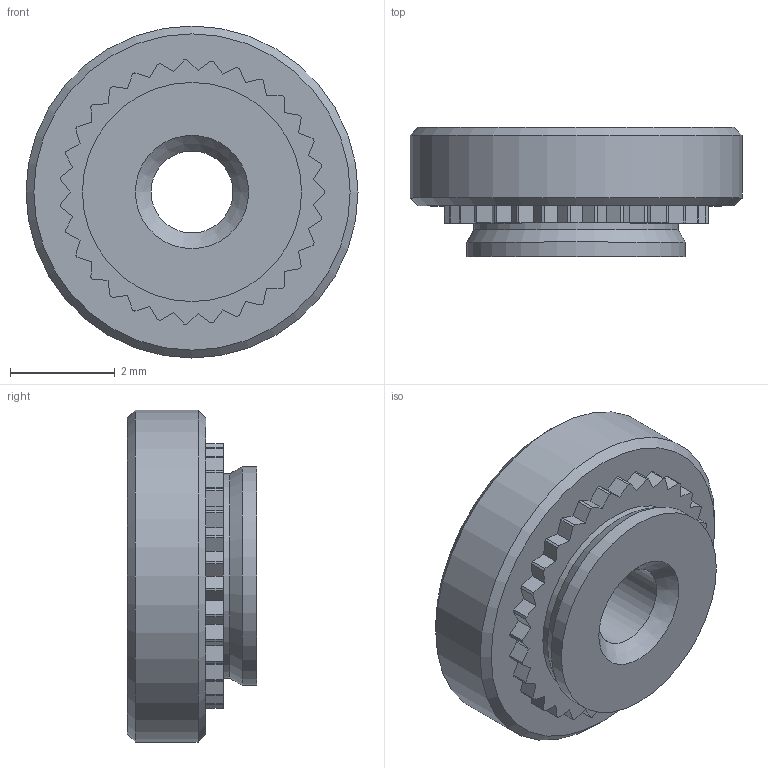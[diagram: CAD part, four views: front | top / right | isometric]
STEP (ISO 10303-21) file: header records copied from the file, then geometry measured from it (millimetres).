
FILE_DESCRIPTION(/* description */ (''),/* implementation_level */ '2;1');
FILE_NAME(/* name */ 'C:\Users\keval.kumar\Desktop\Fastit\Clinch nut\M2\Clinch Nut_M2_1.stp',/* time_stamp */ '2024-03-14T09:26:28+06:00',/* author */ ('keval.kumar'),/* organization */ (''),/* preprocessor_version */ 'ST-DEVELOPER v18.1',/* originating_system */ 'Autodesk Inventor 2022',/* authorisation */ '');
FILE_SCHEMA (('AUTOMOTIVE_DESIGN { 1 0 10303 214 3 1 1 }'));
Length unit declared in the file: millimetre
Products named in the file (1): Clinch Nut_M3_1
Bounding box: 6.35 x 2.47 x 6.35 mm (x, y, z)
Volume: 56.3 mm3; surface area: 113.6 mm2
Topology: 1 solids, 1 shells, 106 faces, 303 edges, 201 vertices
Faces by surface type: plane 66, cylinder 35, cone 5
Full cylindrical faces by diameter (mm): 1.567 x1, 3.91 x1, 4.19 x1, 6.35 x1
Entity records: 3507 total; most frequent: CARTESIAN_POINT 611, ORIENTED_EDGE 606, DIRECTION 594, EDGE_CURVE 303, LINE 226, VECTOR 226, VERTEX_POINT 201, AXIS2_PLACEMENT_3D 184
